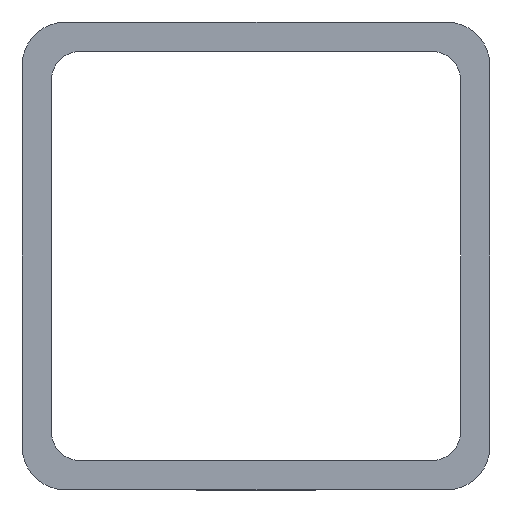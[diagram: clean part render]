
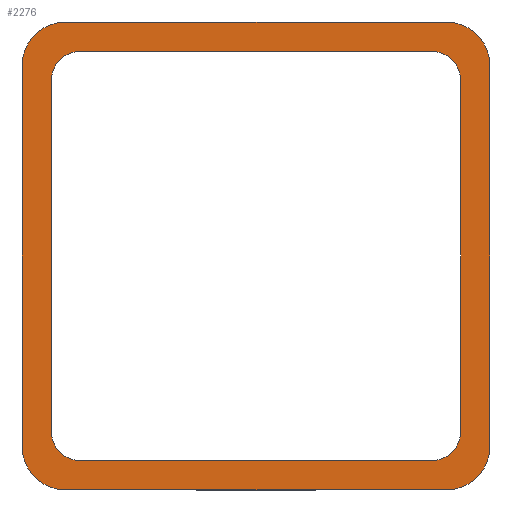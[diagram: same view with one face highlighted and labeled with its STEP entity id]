
A CAD part, left-side view. The second image highlights one B-rep face of the part: STEP entity #2276.
In plain terms, the highlighted planar face has unit normal (-1, 0, 0).
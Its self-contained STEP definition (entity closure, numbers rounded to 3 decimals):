
#1066=PLANE('',#2214);
#1088=CIRCLE('',#2195,7.5);
#1090=CIRCLE('',#2199,7.5);
#1092=CIRCLE('',#2203,7.5);
#1094=CIRCLE('',#2207,7.5);
#1100=CIRCLE('',#2215,5.);
#1101=CIRCLE('',#2216,5.);
#1102=CIRCLE('',#2217,5.);
#1103=CIRCLE('',#2218,5.);
#1164=ORIENTED_EDGE('',*,*,#1584,.T.);
#1165=ORIENTED_EDGE('',*,*,#1586,.T.);
#1166=ORIENTED_EDGE('',*,*,#1553,.T.);
#1167=ORIENTED_EDGE('',*,*,#1557,.T.);
#1168=ORIENTED_EDGE('',*,*,#1564,.T.);
#1169=ORIENTED_EDGE('',*,*,#1567,.T.);
#1170=ORIENTED_EDGE('',*,*,#1578,.T.);
#1171=ORIENTED_EDGE('',*,*,#1581,.T.);
#1172=ORIENTED_EDGE('',*,*,#1596,.T.);
#1173=ORIENTED_EDGE('',*,*,#1597,.T.);
#1174=ORIENTED_EDGE('',*,*,#1598,.T.);
#1175=ORIENTED_EDGE('',*,*,#1599,.T.);
#1176=ORIENTED_EDGE('',*,*,#1600,.T.);
#1177=ORIENTED_EDGE('',*,*,#1601,.T.);
#1178=ORIENTED_EDGE('',*,*,#1602,.T.);
#1179=ORIENTED_EDGE('',*,*,#1603,.T.);
#1323=VECTOR('',#1787,1.);
#1331=VECTOR('',#1803,1.);
#1343=VECTOR('',#1823,1.);
#1346=VECTOR('',#1834,1.);
#1352=VECTOR('',#1850,1.);
#1353=VECTOR('',#1853,1.);
#1354=VECTOR('',#1856,1.);
#1355=VECTOR('',#1859,1.);
#1403=LINE('',#1993,#1323);
#1411=LINE('',#2013,#1331);
#1423=LINE('',#2041,#1343);
#1426=LINE('',#2050,#1346);
#1432=LINE('',#2071,#1352);
#1433=LINE('',#2075,#1353);
#1434=LINE('',#2079,#1354);
#1435=LINE('',#2083,#1355);
#1481=VERTEX_POINT('',#1982);
#1482=VERTEX_POINT('',#1984);
#1485=VERTEX_POINT('',#1991);
#1491=VERTEX_POINT('',#2005);
#1493=VERTEX_POINT('',#2011);
#1503=VERTEX_POINT('',#2033);
#1505=VERTEX_POINT('',#2039);
#1507=VERTEX_POINT('',#2045);
#1516=VERTEX_POINT('',#2069);
#1517=VERTEX_POINT('',#2070);
#1518=VERTEX_POINT('',#2072);
#1519=VERTEX_POINT('',#2074);
#1520=VERTEX_POINT('',#2076);
#1521=VERTEX_POINT('',#2078);
#1522=VERTEX_POINT('',#2080);
#1523=VERTEX_POINT('',#2082);
#1553=EDGE_CURVE('',#1482,#1481,#1088,.T.);
#1557=EDGE_CURVE('',#1481,#1485,#1403,.T.);
#1564=EDGE_CURVE('',#1485,#1491,#1090,.T.);
#1567=EDGE_CURVE('',#1491,#1493,#1411,.T.);
#1578=EDGE_CURVE('',#1493,#1503,#1092,.T.);
#1581=EDGE_CURVE('',#1503,#1505,#1423,.T.);
#1584=EDGE_CURVE('',#1505,#1507,#1094,.T.);
#1586=EDGE_CURVE('',#1507,#1482,#1426,.T.);
#1596=EDGE_CURVE('',#1516,#1517,#1432,.T.);
#1597=EDGE_CURVE('',#1517,#1518,#1100,.T.);
#1598=EDGE_CURVE('',#1518,#1519,#1433,.T.);
#1599=EDGE_CURVE('',#1519,#1520,#1101,.T.);
#1600=EDGE_CURVE('',#1520,#1521,#1434,.T.);
#1601=EDGE_CURVE('',#1521,#1522,#1102,.T.);
#1602=EDGE_CURVE('',#1522,#1523,#1435,.T.);
#1603=EDGE_CURVE('',#1523,#1516,#1103,.T.);
#1672=EDGE_LOOP('',(#1164,#1165,#1166,#1167,#1168,#1169,#1170,#1171));
#1673=EDGE_LOOP('',(#1172,#1173,#1174,#1175,#1176,#1177,#1178,#1179));
#1732=FACE_BOUND('',#1672,.T.);
#1733=FACE_BOUND('',#1673,.T.);
#1779=DIRECTION('',(-1.,0.,0.));
#1780=DIRECTION('',(0.,-7.5,0.));
#1787=DIRECTION('',(0.,0.,-65.));
#1796=DIRECTION('',(-1.,0.,0.));
#1797=DIRECTION('',(0.,-7.5,0.));
#1803=DIRECTION('',(0.,-65.,0.));
#1816=DIRECTION('',(-1.,0.,0.));
#1817=DIRECTION('',(0.,-7.5,0.));
#1823=DIRECTION('',(0.,0.,65.));
#1828=DIRECTION('',(-1.,0.,0.));
#1829=DIRECTION('',(0.,-7.5,0.));
#1834=DIRECTION('',(0.,65.,0.));
#1848=DIRECTION('',(-1.,0.,0.));
#1849=DIRECTION('',(0.,1.,0.));
#1850=DIRECTION('',(0.,-60.,0.));
#1851=DIRECTION('',(1.,0.,0.));
#1852=DIRECTION('',(0.,-5.,0.));
#1853=DIRECTION('',(0.,0.,-60.));
#1854=DIRECTION('',(1.,0.,0.));
#1855=DIRECTION('',(0.,-5.,0.));
#1856=DIRECTION('',(0.,60.,0.));
#1857=DIRECTION('',(1.,0.,0.));
#1858=DIRECTION('',(0.,-5.,0.));
#1859=DIRECTION('',(0.,0.,60.));
#1860=DIRECTION('',(1.,0.,0.));
#1861=DIRECTION('',(0.,-5.,0.));
#1982=CARTESIAN_POINT('',(-20.,40.,32.5));
#1984=CARTESIAN_POINT('',(-20.,32.5,40.));
#1985=CARTESIAN_POINT('',(-20.,32.5,32.5));
#1991=CARTESIAN_POINT('',(-20.,40.,-32.5));
#1993=CARTESIAN_POINT('',(-20.,40.,32.5));
#2005=CARTESIAN_POINT('',(-20.,32.5,-40.));
#2007=CARTESIAN_POINT('',(-20.,32.5,-32.5));
#2011=CARTESIAN_POINT('',(-20.,-32.5,-40.));
#2013=CARTESIAN_POINT('',(-20.,32.5,-40.));
#2033=CARTESIAN_POINT('',(-20.,-40.,-32.5));
#2035=CARTESIAN_POINT('',(-20.,-32.5,-32.5));
#2039=CARTESIAN_POINT('',(-20.,-40.,32.5));
#2041=CARTESIAN_POINT('',(-20.,-40.,-32.5));
#2045=CARTESIAN_POINT('',(-20.,-32.5,40.));
#2047=CARTESIAN_POINT('',(-20.,-32.5,32.5));
#2050=CARTESIAN_POINT('',(-20.,-32.5,40.));
#2068=CARTESIAN_POINT('',(-20.,-40.,32.5));
#2069=CARTESIAN_POINT('',(-20.,30.,35.));
#2070=CARTESIAN_POINT('',(-20.,-30.,35.));
#2071=CARTESIAN_POINT('',(-20.,30.,35.));
#2072=CARTESIAN_POINT('',(-20.,-35.,30.));
#2073=CARTESIAN_POINT('',(-20.,-30.,30.));
#2074=CARTESIAN_POINT('',(-20.,-35.,-30.));
#2075=CARTESIAN_POINT('',(-20.,-35.,30.));
#2076=CARTESIAN_POINT('',(-20.,-30.,-35.));
#2077=CARTESIAN_POINT('',(-20.,-30.,-30.));
#2078=CARTESIAN_POINT('',(-20.,30.,-35.));
#2079=CARTESIAN_POINT('',(-20.,-30.,-35.));
#2080=CARTESIAN_POINT('',(-20.,35.,-30.));
#2081=CARTESIAN_POINT('',(-20.,30.,-30.));
#2082=CARTESIAN_POINT('',(-20.,35.,30.));
#2083=CARTESIAN_POINT('',(-20.,35.,-30.));
#2084=CARTESIAN_POINT('',(-20.,30.,30.));
#2195=AXIS2_PLACEMENT_3D('',#1985,#1779,#1780);
#2199=AXIS2_PLACEMENT_3D('',#2007,#1796,#1797);
#2203=AXIS2_PLACEMENT_3D('',#2035,#1816,#1817);
#2207=AXIS2_PLACEMENT_3D('',#2047,#1828,#1829);
#2214=AXIS2_PLACEMENT_3D('',#2068,#1848,#1849);
#2215=AXIS2_PLACEMENT_3D('',#2073,#1851,#1852);
#2216=AXIS2_PLACEMENT_3D('',#2077,#1854,#1855);
#2217=AXIS2_PLACEMENT_3D('',#2081,#1857,#1858);
#2218=AXIS2_PLACEMENT_3D('',#2084,#1860,#1861);
#2276=ADVANCED_FACE('',(#1732,#1733),#1066,.T.);
